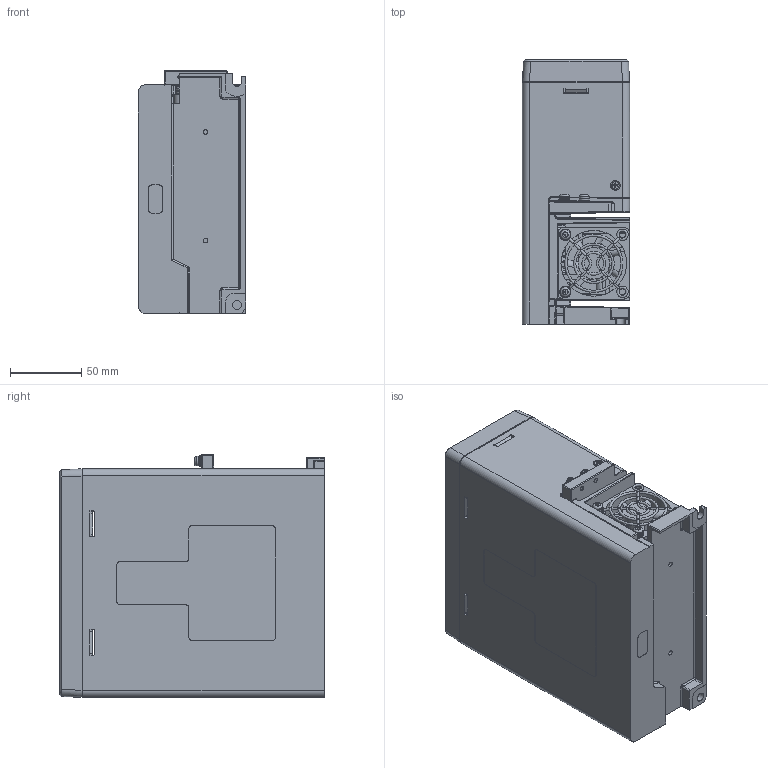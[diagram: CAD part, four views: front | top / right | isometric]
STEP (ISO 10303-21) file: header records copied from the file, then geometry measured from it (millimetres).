
FILE_DESCRIPTION((''),'2;1');
FILE_NAME('C:\Documents and Settings\11254\桌面\SDH-350A2 3D.stp','2015-01-22T15:39:00',('11254'),(''),'Autodesk Inventor 2008','Autodesk Inventor 2008','');
FILE_SCHEMA(('AUTOMOTIVE_DESIGN { 1 0 10303 214 1 1 1 1 }'));
Length unit declared in the file: millimetre
Products named in the file (1): 零件13
Bounding box: 75 x 185.5 x 170 mm (x, y, z)
Volume: 3184.4 mm3; surface area: 270491.3 mm2
Topology: 4 solids, 5 shells, 4836 faces, 13549 edges, 8782 vertices
Faces by surface type: plane 3503, cylinder 664, bspline 524, torus 82, sphere 36, cone 27
Full cylindrical faces by diameter (mm): 1.65 x16, 2.4 x2, 3 x2, 4 x4, 4.2 x4, 4.3 x4, 5.2 x2, 6.1 x1, 6.2 x1, 6.8 x8, 8 x4, 22 x1, 46 x1
Entity records: 173178 total; most frequent: CARTESIAN_POINT 47065, ORIENTED_EDGE 26634, DIRECTION 22661, EDGE_CURVE 13317, VECTOR 10701, LINE 10701, VERTEX_POINT 8723, AXIS2_PLACEMENT_3D 5980
